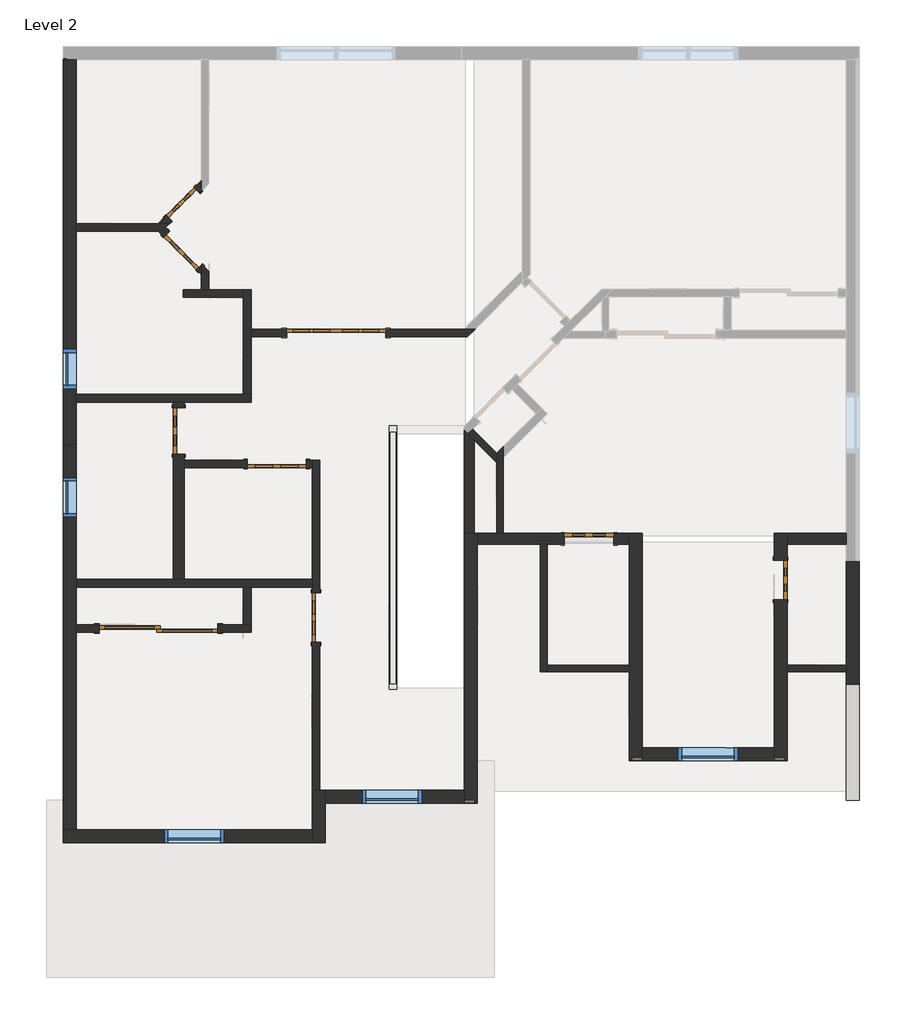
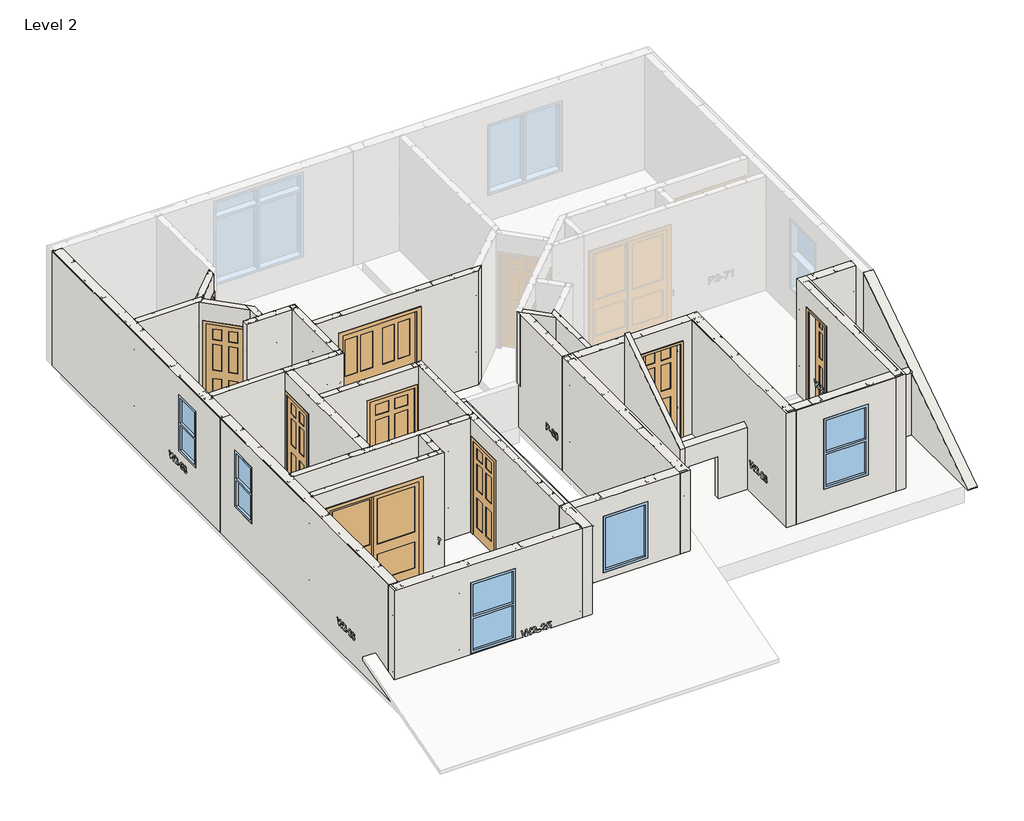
# One storey, part 1 of 46: 33 walls, 9 doors, 9 plates, 5 windows.
"""IFC4 building model written with IfcOpenShell, lengths in millimetres."""

from ifc_helpers import new_model, si_unit, frame, origin, place, context, project, spatial, polyline, outline, extrude, faceted_brep, transform, mapped, element, save
from components import door_96e5bb69, door_b314dff3, door_c8669bc4, door_38cb6b30, door_5d78ae58, door_449ada1f, door_bac94f7e, door_2427d1e9, door_0a2bcba9, system_panel_db5a4bbc, system_panel_f71eefa9, system_panel_914d0df6, system_panel_2f911657, system_panel_e3e1f07d, system_panel_cb42da73, system_panel_3053a784, system_panel_2ae99ec5, system_panel_9af6622a, window_3f51f6f0, window_8445838e, window_53f5c2a4

model = new_model("IFC4")

# Units and contexts
model_context = context("Model", 3, world=origin())
ifc_project = project(units=[si_unit("LENGTHUNIT", "METRE", prefix="MILLI")], contexts=[model_context])

# Site, building, storey
site = spatial("IfcSite", under=ifc_project)
building = spatial("IfcBuilding", under=site)
storey = spatial("IfcBuildingStorey", under=building, Name="Level 2", Elevation=3060.7)

# Doors
placement = place(None, origin())
door_shape = door_96e5bb69(model_context)
element("IfcDoor", 1, ObjectType="INT_Double : 5'-0\" x 6'-8\"", at=placement, inside=storey, context=model_context, shape_type="MappedRepresentation", body=[
    mapped(door_shape, transform((-11098.3413349, 9633.077221, 3060.7), x_axis=(1.0, 0.0, 0.0), y_axis=(0.0, 1.0, 0.0), z_axis=(0.0, 0.0, 1.0))),
])
door_2_shape = door_b314dff3(model_context)
element("IfcDoor", 2, ObjectType="INT_Single : 2'-0\" x 6'-8\"", at=placement, inside=storey, context=model_context, shape_type="MappedRepresentation", body=[
    mapped(door_2_shape, transform((-13463.6672549, 11619.9399338, 3060.7), x_axis=(-0.7071067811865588, -0.7071067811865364, 0.0), y_axis=(0.7071067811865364, -0.7071067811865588, 0.0), z_axis=(0.0, 0.0, 1.0))),
])
door_3_shape = door_c8669bc4(model_context)
element("IfcDoor", 3, ObjectType="INT_Single : 2'-0\" x 6'-8\"", at=placement, inside=storey, context=model_context, shape_type="MappedRepresentation", body=[
    mapped(door_3_shape, transform((-4239.5475849, 5821.489721, 3060.7), x_axis=(0.0, 1.0, 0.0), y_axis=(-1.0, 0.0, 0.0), z_axis=(0.0, 0.0, 1.0))),
])
door_4_shape = door_38cb6b30(model_context)
element("IfcDoor", 4, ObjectType="INT_Single : 2'-4\" x 6'-8\"", at=placement, inside=storey, context=model_context, shape_type="MappedRepresentation", body=[
    mapped(door_4_shape, transform((-13463.6672549, 10903.7645081, 3060.7), x_axis=(-0.7071067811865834, 0.7071067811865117, 0.0), y_axis=(-0.7071067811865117, -0.7071067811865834, 0.0), z_axis=(0.0, 0.0, 1.0))),
])
door_5_shape = door_5d78ae58(model_context)
element("IfcDoor", 5, ObjectType="INT_Single : 2'-4\" x 6'-8\"", at=placement, inside=storey, context=model_context, shape_type="MappedRepresentation", body=[
    mapped(door_5_shape, transform((-13527.2163349, 8120.189721, 3060.7), x_axis=(0.0, 1.0, 0.0), y_axis=(-1.0, 0.0, 0.0), z_axis=(0.0, 0.0, 1.0))),
])
door_6_shape = door_449ada1f(model_context)
element("IfcDoor", 6, ObjectType="INT_Single : 2'-6\" x 6'-8\"", at=placement, inside=storey, context=model_context, shape_type="MappedRepresentation", body=[
    mapped(door_6_shape, transform((-11409.4913349, 5238.877221, 3060.7), x_axis=(0.0, 1.0, 0.0), y_axis=(-1.0, 0.0, 0.0), z_axis=(0.0, 0.0, 1.0))),
])
door_7_shape = door_bac94f7e(model_context)
element("IfcDoor", 7, ObjectType="INT_Single : 2'-6\" x 6'-8\"", at=placement, inside=storey, context=model_context, shape_type="MappedRepresentation", body=[
    mapped(door_7_shape, transform((-7195.4725849, 6454.902221, 3060.7), x_axis=(-1.0, 0.0, 0.0), y_axis=(0.0, -1.0, 0.0), z_axis=(0.0, 0.0, 1.0))),
])
door_8_shape = door_2427d1e9(model_context)
element("IfcDoor", 8, ObjectType="INT_Single : 3'-0\" x 6'-8\"", at=placement, inside=storey, context=model_context, shape_type="MappedRepresentation", body=[
    mapped(door_8_shape, transform((-12017.5038349, 7610.602221, 3060.7), x_axis=(1.0, 0.0, 0.0), y_axis=(0.0, 1.0, 0.0), z_axis=(0.0, 0.0, 1.0))),
])
door_9_shape = door_0a2bcba9(model_context)
element("IfcDoor", 9, ObjectType="INT_Sliding Closet : 6'-0\" x 6'-8\"", at=placement, inside=storey, context=model_context, shape_type="MappedRepresentation", body=[
    mapped(door_9_shape, transform((-13841.5413349, 5197.602221, 3060.7), x_axis=(-1.0, 0.0, 0.0), y_axis=(0.0, -1.0, 0.0), z_axis=(0.0, 0.0, 1.0))),
])

# Plates
system_panel_shape = system_panel_db5a4bbc(model_context)
element("IfcPlate", 10, ObjectType="System Panel : 1/2\" Plywood & 1\" Rigid Ins.", at=placement, inside=storey, context=model_context, shape_type="MappedRepresentation", body=[
    mapped(system_panel_shape, transform((-11295.1913349, 2172.620971, 3060.7), x_axis=(0.0, -1.0, 0.0), y_axis=(1.0, 0.0, 0.0), z_axis=(0.0, 0.0, 1.0))),
])
system_panel_2_shape = system_panel_f71eefa9(model_context)
element("IfcPlate", 11, ObjectType="System Panel : 1/2\" Plywood & 1\" Rigid Ins.", at=placement, inside=storey, context=model_context, shape_type="MappedRepresentation", body=[
    mapped(system_panel_2_shape, transform((-13366.8788349, 1794.002221, 3060.7), x_axis=(-1.0, 0.0, 0.0), y_axis=(0.0, -1.0, 0.0), z_axis=(0.0, 0.0, 1.0))),
])
system_panel_3_shape = system_panel_914d0df6(model_context)
element("IfcPlate", 12, ObjectType="System Panel : 1/2\" Plywood & 1\" Rigid Ins.", at=placement, inside=storey, context=model_context, shape_type="MappedRepresentation", body=[
    mapped(system_panel_3_shape, transform((-15282.9913349, 4930.2324992, 3060.7), x_axis=(0.0, 1.0, 0.0), y_axis=(-1.0, 0.0, 0.0), z_axis=(0.0, 0.0, 1.0))),
])
system_panel_4_shape = system_panel_2f911657(model_context)
element("IfcPlate", 13, ObjectType="System Panel : 1/2\" Plywood & 1\" Rigid Ins.", at=placement, inside=storey, context=model_context, shape_type="MappedRepresentation", body=[
    mapped(system_panel_4_shape, transform((-8945.6913349, 4465.764721, 3060.7), x_axis=(0.0, -1.0, 0.0), y_axis=(1.0, 0.0, 0.0), z_axis=(0.0, 0.0, 1.0))),
])
system_panel_5_shape = system_panel_e3e1f07d(model_context)
element("IfcPlate", 14, ObjectType="System Panel : 1/2\" Plywood & 1\" Rigid Ins.", at=placement, inside=storey, context=model_context, shape_type="MappedRepresentation", body=[
    mapped(system_panel_5_shape, transform((-6550.1538349, 4791.995971, 3060.7), x_axis=(0.0, 1.0, 0.0), y_axis=(-1.0, 0.0, 0.0), z_axis=(0.0, 0.0, 1.0))),
])
system_panel_6_shape = system_panel_cb42da73(model_context)
element("IfcPlate", 15, ObjectType="System Panel : 1/2\" Plywood & 1\" Rigid Ins.", at=placement, inside=storey, context=model_context, shape_type="MappedRepresentation", body=[
    mapped(system_panel_6_shape, transform((-15282.9913349, 10886.5324992, 3060.7), x_axis=(0.0, 1.0, 0.0), y_axis=(-1.0, 0.0, 0.0), z_axis=(0.0, 0.0, 1.0))),
])
system_panel_7_shape = system_panel_3053a784(model_context)
element("IfcPlate", 16, ObjectType="System Panel : 1/2\" Plywood & 1\" Rigid Ins.", at=placement, inside=storey, context=model_context, shape_type="MappedRepresentation", body=[
    mapped(system_panel_7_shape, transform((-10116.4725849, 2403.602221, 3060.7), x_axis=(-1.0, 0.0, 0.0), y_axis=(0.0, -1.0, 0.0), z_axis=(0.0, 0.0, 1.0))),
])
system_panel_8_shape = system_panel_2ae99ec5(model_context)
element("IfcPlate", 17, ObjectType="System Panel : 1/2\" Plywood & 1\" Rigid Ins.", at=placement, inside=storey, context=model_context, shape_type="MappedRepresentation", body=[
    mapped(system_panel_8_shape, transform((-4165.7288349, 4791.995971, 3060.7), x_axis=(0.0, -1.0, 0.0), y_axis=(1.0, 0.0, 0.0), z_axis=(0.0, 0.0, 1.0))),
])
system_panel_9_shape = system_panel_9af6622a(model_context)
element("IfcPlate", 18, ObjectType="System Panel : 1/2\" Plywood & 1\" Rigid Ins.", at=placement, inside=storey, context=model_context, shape_type="MappedRepresentation", body=[
    mapped(system_panel_9_shape, transform((-5357.9413349, 3056.064721, 3060.7), x_axis=(-1.0, 0.0, 0.0), y_axis=(0.0, -1.0, 0.0), z_axis=(0.0, 0.0, 1.0))),
])

# Walls
element("IfcWall", 19, ObjectType="EXT_550_Gyp_01", at=placement, inside=storey, context=model_context, shape_type="SweptSolid", body=[
    extrude(outline(polyline([(3060.7, -8918.7038349), (3060.7, -7576.4725849), (5092.7, -7576.4725849), (5092.7, -6814.4725849), (3060.7, -6814.4725849), (3060.7, -6577.1413349), (5524.5, -6577.1413349), (5524.5, -8918.7038349), (3060.7, -8918.7038349)])), frame((0.0, 6369.177221, 0.0), z_axis=(0.0, 1.0, 0.0), x_axis=(0.0, 0.0, 1.0)), (0.0, 0.0, 1.0), 171.45),
])
element("IfcWall", 20, ObjectType="EXT_550_Gyp_01", at=placement, inside=storey, context=model_context, shape_type="SweptSolid", body=[
    extrude(outline(polyline([(-3227.5163349, 6369.177221), (-4138.7413349, 6369.177221), (-4138.7413349, 6540.627221), (-3227.5163349, 6540.627221), (-3227.5163349, 6369.177221)])), frame((0.0, 0.0, 3060.7), z_axis=(0.0, 0.0, 1.0), x_axis=(1.0, 0.0, 0.0)), (0.0, 0.0, 1.0), 2463.8),
])
element("IfcWall", 21, ObjectType="EXT_550_Siding_01", at=placement, inside=storey, context=model_context, shape_type="Brep", body=[
    faceted_brep([(-11469.8163349, 2578.227221, 3060.7), (-11469.8163349, 1968.627221, 3060.7), (-11469.8163349, 1767.014721, 3060.7), (-11469.8163349, 1767.014721, 3520.3135147), (-11469.8163349, 1813.052221, 3533.7411188), (-11469.8163349, 1813.052221, 3613.1161188), (-11469.8163349, 1767.014721, 3599.6885147), (-11469.8163349, 1767.014721, 5524.5), (-11469.8163349, 1968.627221, 5524.5), (-11469.8163349, 2578.227221, 5524.5), (-11268.2038349, 2578.227221, 5524.5), (-11268.2038349, 2376.614721, 5524.5), (-11268.2038349, 1968.627221, 5524.5), (-11268.2038349, 1767.014721, 5524.5), (-11268.2038349, 1767.014721, 3599.6885147), (-11268.2038349, 2422.652221, 3790.9161188), (-11268.2038349, 2422.652221, 3711.5411188), (-11268.2038349, 1767.014721, 3520.3135147), (-11268.2038349, 1767.014721, 3060.7), (-11268.2038349, 2376.614721, 3060.7), (-11268.2038349, 2578.227221, 3060.7), (-11314.2413349, 2578.227221, 3060.7), (-11314.2413349, 1767.014721, 3060.7), (-11314.2413349, 2422.652221, 3711.5411188), (-11314.2413349, 1813.052221, 3533.7411188), (-11314.2413349, 1813.052221, 3613.1161188), (-11314.2413349, 2422.652221, 3790.9161188)], [[[0, 1, 2, 3, 4, 5, 6, 7, 8, 9]], [[10, 11, 12, 13, 14, 15, 16, 17, 18, 19, 20]], [[9, 8, 7, 13, 12, 11, 10]], [[0, 9, 10, 20, 21]], [[2, 22, 18, 17, 3]], [[13, 7, 6, 14]], [[23, 24, 4, 3, 17, 16]], [[25, 26, 15, 14, 6, 5]], [[24, 25, 5, 4]], [[24, 23, 26, 25]], [[2, 1, 0, 21, 22]], [[21, 20, 19, 18, 22]], [[26, 23, 16, 15]]]),
])
element("IfcWall", 22, ObjectType="EXT_550_Siding_01", at=placement, inside=storey, context=model_context, shape_type="Brep", body=[
    faceted_brep([(-11469.8163349, 1968.627221, 3060.7), (-15108.3663349, 1968.627221, 3060.7), (-15309.9788349, 1968.627221, 3060.7), (-15309.9788349, 1968.627221, 3579.1171605), (-15263.9413349, 1968.627221, 3579.1171605), (-15263.9413349, 1968.627221, 3658.4921605), (-15309.9788349, 1968.627221, 3658.4921605), (-15309.9788349, 1968.627221, 5524.5), (-15108.3663349, 1968.627221, 5524.5), (-11469.8163349, 1968.627221, 5524.5), (-13746.2913349, 1968.627221, 5143.5), (-13746.2913349, 1968.627221, 3619.5), (-12831.8913349, 1968.627221, 3619.5), (-12831.8913349, 1968.627221, 5143.5), (-11469.8163349, 1767.014721, 5524.5), (-15309.9788349, 1767.014721, 5524.5), (-15309.9788349, 1767.014721, 3599.6885147), (-11469.8163349, 1767.014721, 3599.6885147), (-13746.2913349, 1767.014721, 3619.5), (-13746.2913349, 1767.014721, 5143.5), (-12831.8913349, 1767.014721, 5143.5), (-12831.8913349, 1767.014721, 3619.5), (-15309.9788349, 1767.014721, 3060.7), (-11469.8163349, 1767.014721, 3060.7), (-11469.8163349, 1767.014721, 3520.3135147), (-15309.9788349, 1767.014721, 3520.3135147), (-11469.8163349, 1813.052221, 3613.1161188), (-11469.8163349, 1813.052221, 3533.7411188), (-11469.8163349, 1813.052221, 3060.7), (-15309.9788349, 1813.052221, 3060.7), (-15263.9413349, 1813.052221, 3533.7411188), (-15263.9413349, 1813.052221, 3613.1161188)], [[[0, 1, 2, 3, 4, 5, 6, 7, 8, 9], [10, 11, 12, 13]], [[14, 15, 16, 17], [18, 19, 20, 21]], [[22, 23, 24, 25]], [[9, 8, 7, 15, 14]], [[0, 9, 14, 17, 26, 27, 24, 23, 28]], [[15, 7, 6, 16]], [[2, 29, 22, 25, 3]], [[27, 30, 4, 3, 25, 24]], [[5, 31, 26, 17, 16, 6]], [[31, 30, 27, 26]], [[30, 31, 5, 4]], [[2, 1, 0, 28, 29]], [[28, 23, 22, 29]], [[18, 11, 10, 19]], [[11, 18, 21, 12]], [[12, 21, 20, 13]], [[19, 10, 13, 20]]]),
])
element("IfcWall", 23, ObjectType="EXT_550_Siding_01", at=placement, inside=storey, context=model_context, shape_type="Brep", body=[
    faceted_brep([(-15108.3663349, 1968.627221, 3060.7), (-15108.3663349, 7907.7127774, 3060.7), (-15108.3663349, 7907.7127774, 5524.5), (-15108.3663349, 1968.627221, 5524.5), (-15108.3663349, 7401.052221, 5143.5), (-15108.3663349, 7401.052221, 3924.3), (-15108.3663349, 6791.452221, 3924.3), (-15108.3663349, 6791.452221, 5143.5), (-15309.9788349, 7907.7127774, 5524.5), (-15309.9788349, 7907.7127774, 3060.7), (-15309.9788349, 1968.627221, 3060.7), (-15309.9788349, 1968.627221, 3579.1171605), (-15309.9788349, 2422.652221, 3711.5411188), (-15309.9788349, 2422.652221, 3790.9161188), (-15309.9788349, 1968.627221, 3658.4921605), (-15309.9788349, 1968.627221, 5524.5), (-15309.9788349, 7401.052221, 3924.3), (-15309.9788349, 7401.052221, 5143.5), (-15309.9788349, 6791.452221, 5143.5), (-15309.9788349, 6791.452221, 3924.3), (-15263.9413349, 7907.7127774, 3060.7), (-15263.9413349, 1968.627221, 3658.4921605), (-15263.9413349, 1968.627221, 3579.1171605), (-15263.9413349, 1968.627221, 3060.7), (-15263.9413349, 2422.652221, 3711.5411188), (-15263.9413349, 2422.652221, 3790.9161188)], [[[0, 1, 2, 3], [4, 5, 6, 7]], [[8, 9, 10, 11, 12, 13, 14, 15], [16, 17, 18, 19]], [[2, 1, 20, 9, 8]], [[3, 2, 8, 15]], [[0, 3, 15, 14, 21, 22, 11, 10, 23]], [[22, 24, 12, 11]], [[13, 25, 21, 14]], [[24, 25, 13, 12]], [[25, 24, 22, 21]], [[1, 0, 23, 20]], [[23, 10, 9, 20]], [[5, 4, 17, 16]], [[6, 5, 16, 19]], [[7, 6, 19, 18]], [[4, 7, 18, 17]]]),
])
element("IfcWall", 24, ObjectType="EXT_550_Siding_01", at=placement, inside=storey, context=model_context, shape_type="Brep", body=[
    faceted_brep([(-9120.3163349, 6540.627221, 3060.7), (-9120.3163349, 2578.227221, 3060.7), (-9120.3163349, 2376.614721, 3060.7), (-9120.3163349, 2376.614721, 3698.1135147), (-9120.3163349, 2422.652221, 3711.5411188), (-9120.3163349, 2422.652221, 3790.9161188), (-9120.3163349, 2376.614721, 3777.4885147), (-9120.3163349, 2376.614721, 5524.5), (-9120.3163349, 2578.227221, 5524.5), (-9120.3163349, 6540.627221, 5524.5), (-8918.7038349, 6540.627221, 5524.5), (-8918.7038349, 6369.177221, 5524.5), (-8918.7038349, 2578.227221, 5524.5), (-8918.7038349, 2376.614721, 5524.5), (-8918.7038349, 2376.614721, 3777.4885147), (-8918.7038349, 3032.252221, 3968.7161188), (-8918.7038349, 3032.252221, 3889.3411188), (-8918.7038349, 2376.614721, 3698.1135147), (-8918.7038349, 2376.614721, 3165.1765355), (-8918.7038349, 2376.614721, 3060.7), (-8918.7038349, 2403.0619225, 3060.7), (-8918.7038349, 6369.177221, 3060.7), (-8918.7038349, 6540.627221, 3060.7), (-8964.7413349, 3032.252221, 3889.3411188), (-8964.7413349, 2422.652221, 3711.5411188), (-8964.7413349, 2422.652221, 3790.9161188), (-8964.7413349, 3032.252221, 3968.7161188), (-8964.7413349, 6540.627221, 3060.7), (-8964.7413349, 2376.614721, 3060.7)], [[[0, 1, 2, 3, 4, 5, 6, 7, 8, 9]], [[10, 11, 12, 13, 14, 15, 16, 17, 18, 19, 20, 21, 22]], [[9, 8, 7, 13, 12, 11, 10]], [[23, 24, 4, 3, 17, 16]], [[25, 26, 15, 14, 6, 5]], [[26, 23, 16, 15]], [[24, 23, 26, 25]], [[2, 1, 0, 27, 28]], [[2, 28, 19, 18, 17, 3]], [[13, 7, 6, 14]], [[24, 25, 5, 4]], [[0, 9, 10, 22, 27]], [[28, 27, 22, 21, 20, 19]]]),
])
element("IfcWall", 25, ObjectType="EXT_550_Siding_01", at=placement, inside=storey, context=model_context, shape_type="Brep", body=[
    faceted_brep([(-6375.5288349, 3029.077221, 3060.7), (-6375.5288349, 3230.689721, 3060.7), (-6375.5288349, 6540.627221, 3060.7), (-6375.5288349, 6540.627221, 5524.5), (-6375.5288349, 3230.689721, 5524.5), (-6375.5288349, 3029.077221, 5524.5), (-6577.1413349, 3029.077221, 3060.7), (-6577.1413349, 3029.077221, 5524.5), (-6577.1413349, 3230.689721, 5524.5), (-6577.1413349, 6369.177221, 5524.5), (-6577.1413349, 6540.627221, 5524.5), (-6577.1413349, 6540.627221, 3060.7), (-6577.1413349, 6369.177221, 3060.7), (-6531.1038349, 3029.077221, 3060.7), (-6531.1038349, 6540.627221, 3060.7)], [[[0, 1, 2, 3, 4, 5]], [[6, 7, 8, 9, 10, 11, 12]], [[5, 4, 3, 10, 9, 8, 7]], [[2, 1, 0, 13, 14]], [[3, 2, 14, 11, 10]], [[0, 5, 7, 6, 13]], [[13, 6, 12, 11, 14]]]),
])
element("IfcWall", 26, ObjectType="EXT_550_Siding_01", at=placement, inside=storey, context=model_context, shape_type="Brep", body=[
    faceted_brep([(-4138.7413349, 6540.627221, 5524.5), (-4138.7413349, 6369.177221, 5524.5), (-4138.7413349, 3230.689721, 5524.5), (-4138.7413349, 3029.077221, 5524.5), (-4138.7413349, 3029.077221, 3060.7), (-4138.7413349, 5516.689721, 3060.7), (-4138.7413349, 5516.689721, 5092.7), (-4138.7413349, 6126.289721, 5092.7), (-4138.7413349, 6126.289721, 3060.7), (-4138.7413349, 6369.177221, 3060.7), (-4138.7413349, 6540.627221, 3060.7), (-4340.3538349, 3029.077221, 5524.5), (-4340.3538349, 3230.689721, 5524.5), (-4340.3538349, 6540.627221, 5524.5), (-4340.3538349, 6540.627221, 3060.7), (-4340.3538349, 6126.289721, 3060.7), (-4340.3538349, 6126.289721, 5092.7), (-4340.3538349, 5516.689721, 5092.7), (-4340.3538349, 5516.689721, 3060.7), (-4340.3538349, 3230.689721, 3060.7), (-4340.3538349, 3029.077221, 3060.7), (-4184.7788349, 6540.627221, 3060.7), (-4184.7788349, 6126.289721, 3060.7), (-4184.7788349, 3029.077221, 3060.7), (-4184.7788349, 5516.689721, 3060.7)], [[[0, 1, 2, 3, 4, 5, 6, 7, 8, 9, 10]], [[11, 12, 13, 14, 15, 16, 17, 18, 19, 20]], [[3, 2, 1, 0, 13, 12, 11]], [[14, 21, 22, 15]], [[23, 20, 19, 18, 24]], [[21, 10, 9, 8, 22]], [[4, 23, 24, 5]], [[7, 16, 15, 22, 8]], [[16, 7, 6, 17]], [[17, 6, 5, 24, 18]], [[0, 10, 21, 14, 13]], [[4, 3, 11, 20, 23]]]),
])
element("IfcWall", 27, ObjectType="EXT_550_Siding_01", at=placement, inside=storey, context=model_context, shape_type="Brep", body=[
    faceted_brep([(-15108.3663349, 7907.7127774, 3060.7), (-15108.3663349, 13849.477221, 3060.7), (-15108.3663349, 13849.477221, 5524.5), (-15108.3663349, 7907.7127774, 5524.5), (-15108.3663349, 9382.4062273, 5143.5), (-15108.3663349, 9382.4062273, 3924.3), (-15108.3663349, 8772.8062273, 3924.3), (-15108.3663349, 8772.8062273, 5143.5), (-15309.9788349, 7907.7127774, 3060.7), (-15309.9788349, 7907.7127774, 5524.5), (-15309.9788349, 13849.477221, 5524.5), (-15309.9788349, 13849.477221, 3060.7), (-15309.9788349, 9382.4062273, 5143.5), (-15309.9788349, 8772.8062273, 5143.5), (-15309.9788349, 8772.8062273, 3924.3), (-15309.9788349, 9382.4062273, 3924.3), (-15263.9413349, 7907.7127774, 3060.7), (-15263.9413349, 13849.477221, 3060.7)], [[[0, 1, 2, 3], [4, 5, 6, 7]], [[8, 9, 10, 11], [12, 13, 14, 15]], [[3, 2, 10, 9]], [[0, 3, 9, 8, 16]], [[2, 1, 17, 11, 10]], [[1, 0, 16, 17]], [[16, 8, 11, 17]], [[4, 7, 13, 12]], [[7, 6, 14, 13]], [[6, 5, 15, 14]], [[5, 4, 12, 15]]]),
])
element("IfcWall", 28, ObjectType="EXT_550_Siding_01", at=placement, inside=storey, context=model_context, shape_type="Brep", body=[
    faceted_brep([(-3227.5163349, 6104.3914974, 3060.7), (-3227.5163349, 2422.652221, 3060.7), (-3227.5163349, 2422.652221, 3073.760199), (-3227.5163349, 6104.3914974, 5528.2530499), (-3227.5163349, 6104.3914974, 5524.5), (-3025.9038349, 6104.3914974, 3060.7), (-3025.9038349, 6104.3914974, 5524.5), (-3025.9038349, 6104.3914974, 5528.2530499), (-3025.9038349, 2422.652221, 3073.760199), (-3025.9038349, 2422.652221, 3060.7), (-3071.9413349, 2422.652221, 3060.7), (-3071.9413349, 6104.3914974, 3060.7)], [[[0, 1, 2, 3, 4]], [[5, 6, 7, 8, 9]], [[2, 1, 10, 9, 8]], [[0, 4, 3, 7, 6, 5, 11]], [[1, 0, 11, 10]], [[11, 5, 9, 10]], [[3, 2, 8, 7]]]),
])
element("IfcWall", 29, ObjectType="EXT_550_Siding_01", at=placement, inside=storey, context=model_context, shape_type="Brep", body=[
    faceted_brep([(-11268.2038349, 2376.614721, 3060.7), (-9120.3163349, 2376.614721, 3060.7), (-9120.3163349, 2376.614721, 3698.1135147), (-9120.3163349, 2376.614721, 3777.4885147), (-9120.3163349, 2376.614721, 5524.5), (-11268.2038349, 2376.614721, 5524.5), (-9777.5413349, 2376.614721, 5143.5), (-9777.5413349, 2376.614721, 3924.3), (-10691.9413349, 2376.614721, 3924.3), (-10691.9413349, 2376.614721, 5143.5), (-11268.2038349, 2578.227221, 3060.7), (-11268.2038349, 2578.227221, 5524.5), (-9120.3163349, 2578.227221, 5524.5), (-9120.3163349, 2578.227221, 3060.7), (-9777.5413349, 2578.227221, 5143.5), (-10691.9413349, 2578.227221, 5143.5), (-10691.9413349, 2578.227221, 3924.3), (-9777.5413349, 2578.227221, 3924.3), (-11268.2038349, 2422.652221, 3060.7), (-9120.3163349, 2422.652221, 3060.7)], [[[0, 1, 2, 3, 4, 5], [6, 7, 8, 9]], [[10, 11, 12, 13], [14, 15, 16, 17]], [[5, 4, 12, 11]], [[18, 10, 13, 19]], [[1, 0, 18, 19]], [[7, 6, 14, 17]], [[8, 7, 17, 16]], [[9, 8, 16, 15]], [[6, 9, 15, 14]], [[4, 3, 2, 1, 19, 13, 12]], [[0, 5, 11, 10, 18]]]),
])
element("IfcWall", 30, ObjectType="EXT_550_Siding_01", at=placement, inside=storey, context=model_context, shape_type="Brep", body=[
    faceted_brep([(-6375.5288349, 3029.077221, 3060.7), (-4340.3538349, 3029.077221, 3060.7), (-4340.3538349, 3029.077221, 5524.5), (-6375.5288349, 3029.077221, 5524.5), (-5815.1413349, 3029.077221, 5143.5), (-4900.7413349, 3029.077221, 5143.5), (-4900.7413349, 3029.077221, 3619.5), (-5815.1413349, 3029.077221, 3619.5), (-6375.5288349, 3230.689721, 3060.7), (-6375.5288349, 3230.689721, 5524.5), (-4340.3538349, 3230.689721, 5524.5), (-4340.3538349, 3230.689721, 3060.7), (-5815.1413349, 3230.689721, 5143.5), (-5815.1413349, 3230.689721, 3619.5), (-4900.7413349, 3230.689721, 3619.5), (-4900.7413349, 3230.689721, 5143.5), (-6375.5288349, 3075.114721, 3060.7), (-4340.3538349, 3075.114721, 3060.7)], [[[0, 1, 2, 3], [4, 5, 6, 7]], [[8, 9, 10, 11], [12, 13, 14, 15]], [[3, 2, 10, 9]], [[16, 8, 11, 17]], [[1, 0, 16, 17]], [[13, 12, 4, 7]], [[14, 13, 7, 6]], [[15, 14, 6, 5]], [[12, 15, 5, 4]], [[0, 3, 9, 8, 16]], [[2, 1, 17, 11, 10]]]),
])
element("IfcWall", 31, ObjectType="INT_350_Gyp_01", at=placement, inside=storey, context=model_context, shape_type="Brep", body=[
    faceted_brep([(-11349.1663349, 5619.877221, 5092.7), (-11349.1663349, 5619.877221, 3060.7), (-11349.1663349, 7670.927221, 3060.7), (-11349.1663349, 7670.927221, 5524.5), (-11349.1663349, 2578.227221, 5524.5), (-11349.1663349, 2578.227221, 3060.7), (-11349.1663349, 4857.877221, 3060.7), (-11349.1663349, 4857.877221, 5092.7), (-11469.8163349, 7670.927221, 3060.7), (-11469.8163349, 7550.277221, 3060.7), (-11469.8163349, 5829.427221, 3060.7), (-11469.8163349, 5708.777221, 3060.7), (-11469.8163349, 5619.877221, 3060.7), (-11469.8163349, 5619.877221, 5092.7), (-11469.8163349, 4857.877221, 5092.7), (-11469.8163349, 4857.877221, 3060.7), (-11469.8163349, 2578.227221, 3060.7), (-11469.8163349, 2578.227221, 5524.5), (-11469.8163349, 5708.777221, 5524.5), (-11469.8163349, 5829.427221, 5524.5), (-11469.8163349, 7550.277221, 5524.5), (-11469.8163349, 7670.927221, 5524.5)], [[[0, 1, 2, 3, 4, 5, 6, 7]], [[8, 9, 10, 11, 12, 13, 14, 15, 16, 17, 18, 19, 20, 21]], [[6, 5, 16, 15]], [[2, 1, 12, 11, 10, 9, 8]], [[4, 3, 21, 20, 19, 18, 17]], [[3, 2, 8, 21]], [[5, 4, 17, 16]], [[13, 12, 1, 0]], [[14, 13, 0, 7]], [[15, 14, 7, 6]]]),
])
element("IfcWall", 32, ObjectType="INT_350_Gyp_01", at=placement, inside=storey, context=model_context, shape_type="Brep", body=[
    faceted_brep([(-10161.7163349, 4134.5036599, 3060.7), (-10161.7163349, 8081.5704064, 3060.7), (-10161.7163349, 8202.2204064, 3060.7), (-10161.7163349, 8202.2204064, 3975.1), (-10161.7163349, 8081.5704064, 3975.1), (-10161.7163349, 4134.5036599, 3975.1), (-10282.3663349, 4134.5036599, 3060.7), (-10282.3663349, 4134.5036599, 3975.1), (-10282.3663349, 8202.2204064, 3975.1), (-10282.3663349, 8202.2204064, 3060.7)], [[[0, 1, 2, 3, 4, 5]], [[6, 7, 8, 9]], [[2, 1, 0, 6, 9]], [[5, 4, 3, 8, 7]], [[0, 5, 7, 6]], [[3, 2, 9, 8]]]),
])
element("IfcWall", 33, ObjectType="INT_350_Gyp_01", at=placement, inside=storey, context=model_context, shape_type="Brep", body=[
    faceted_brep([(-15108.3663349, 5708.777221, 3060.7), (-12533.4413349, 5708.777221, 3060.7), (-12412.7913349, 5708.777221, 3060.7), (-11469.8163349, 5708.777221, 3060.7), (-11469.8163349, 5708.777221, 5524.5), (-12412.7913349, 5708.777221, 5524.5), (-12533.4413349, 5708.777221, 5524.5), (-15108.3663349, 5708.777221, 5524.5), (-15108.3663349, 5829.427221, 3060.7), (-15108.3663349, 5829.427221, 5524.5), (-13612.9413349, 5829.427221, 5524.5), (-13441.4913349, 5829.427221, 5524.5), (-11469.8163349, 5829.427221, 5524.5), (-11469.8163349, 5829.427221, 3060.7), (-13441.4913349, 5829.427221, 3060.7), (-13612.9413349, 5829.427221, 3060.7)], [[[0, 1, 2, 3, 4, 5, 6, 7]], [[8, 9, 10, 11, 12, 13, 14, 15]], [[3, 2, 1, 0, 8, 15, 14, 13]], [[7, 6, 5, 4, 12, 11, 10, 9]], [[0, 7, 9, 8]], [[4, 3, 13, 12]]]),
])
element("IfcWall", 34, ObjectType="INT_350_Gyp_01", at=placement, inside=storey, context=model_context, shape_type="Brep", body=[
    faceted_brep([(-15108.3663349, 5010.277221, 3060.7), (-14755.9413349, 5010.277221, 3060.7), (-14755.9413349, 5010.277221, 5092.7), (-12927.1413349, 5010.277221, 5092.7), (-12927.1413349, 5010.277221, 3060.7), (-12412.7913349, 5010.277221, 3060.7), (-12412.7913349, 5010.277221, 5524.5), (-15108.3663349, 5010.277221, 5524.5), (-14755.9413349, 5130.927221, 5092.7), (-14755.9413349, 5130.927221, 3060.7), (-15108.3663349, 5130.927221, 3060.7), (-15108.3663349, 5130.927221, 5524.5), (-12533.4413349, 5130.927221, 5524.5), (-12412.7913349, 5130.927221, 5524.5), (-12412.7913349, 5130.927221, 3060.7), (-12533.4413349, 5130.927221, 3060.7), (-12927.1413349, 5130.927221, 3060.7), (-12927.1413349, 5130.927221, 5092.7)], [[[0, 1, 2, 3, 4, 5, 6, 7]], [[8, 9, 10, 11, 12, 13, 14, 15, 16, 17]], [[10, 9, 1, 0]], [[16, 15, 14, 5, 4]], [[7, 6, 13, 12, 11]], [[6, 5, 14, 13]], [[0, 7, 11, 10]], [[4, 3, 17, 16]], [[2, 1, 9, 8]], [[3, 2, 8, 17]]]),
])
element("IfcWall", 35, ObjectType="INT_350_Gyp_01", at=placement, inside=storey, context=model_context, shape_type="SweptSolid", body=[
    extrude(outline(polyline([(-12412.7913349, 5708.777221), (-12412.7913349, 5130.927221), (-12533.4413349, 5130.927221), (-12533.4413349, 5708.777221), (-12412.7913349, 5708.777221)])), frame((0.0, 0.0, 3060.7), z_axis=(0.0, 0.0, 1.0), x_axis=(1.0, 0.0, 0.0)), (0.0, 0.0, 1.0), 2463.8),
])
element("IfcWall", 36, ObjectType="INT_350_Gyp_01", at=placement, inside=storey, context=model_context, shape_type="SweptSolid", body=[
    extrude(outline(polyline([(5092.7, -11560.3038349), (3060.7, -11560.3038349), (3060.7, -11469.8163349), (5524.5, -11469.8163349), (5524.5, -13441.4913349), (3060.7, -13441.4913349), (3060.7, -12474.7038349), (5092.7, -12474.7038349), (5092.7, -11560.3038349)])), frame((0.0, 7550.277221, 0.0), z_axis=(0.0, 1.0, 0.0), x_axis=(0.0, 0.0, 1.0)), (0.0, 0.0, 1.0), 120.65),
])
element("IfcWall", 37, ObjectType="INT_350_Gyp_01", at=placement, inside=storey, context=model_context, shape_type="Brep", body=[
    faceted_brep([(-15108.3663349, 8566.277221, 3060.7), (-13612.9413349, 8566.277221, 3060.7), (-13441.4913349, 8566.277221, 3060.7), (-12412.7913349, 8566.277221, 3060.7), (-12412.7913349, 8566.277221, 5524.5), (-13441.4913349, 8566.277221, 5524.5), (-13612.9413349, 8566.277221, 5524.5), (-15108.3663349, 8566.277221, 5524.5), (-15108.3663349, 8686.927221, 3060.7), (-15108.3663349, 8686.927221, 5524.5), (-12533.4413349, 8686.927221, 5524.5), (-12412.7913349, 8686.927221, 5524.5), (-12412.7913349, 8686.927221, 3060.7), (-12533.4413349, 8686.927221, 3060.7)], [[[0, 1, 2, 3, 4, 5, 6, 7]], [[8, 9, 10, 11, 12, 13]], [[3, 2, 1, 0, 8, 13, 12]], [[7, 6, 5, 4, 11, 10, 9]], [[4, 3, 12, 11]], [[0, 7, 9, 8]]]),
])
element("IfcWall", 38, ObjectType="INT_350_Gyp_01", at=placement, inside=storey, context=model_context, shape_type="Brep", body=[
    faceted_brep([(-12412.7913349, 8686.927221, 3060.7), (-12412.7913349, 9572.752221, 3060.7), (-12412.7913349, 9693.402221, 3060.7), (-12412.7913349, 10303.002221, 3060.7), (-12412.7913349, 10303.002221, 5524.5), (-12412.7913349, 9693.402221, 5524.5), (-12412.7913349, 9572.752221, 5524.5), (-12412.7913349, 8686.927221, 5524.5), (-12533.4413349, 8686.927221, 3060.7), (-12533.4413349, 8686.927221, 5524.5), (-12533.4413349, 10182.352221, 5524.5), (-12533.4413349, 10303.002221, 5524.5), (-12533.4413349, 10303.002221, 3060.7), (-12533.4413349, 10182.352221, 3060.7)], [[[0, 1, 2, 3, 4, 5, 6, 7]], [[8, 9, 10, 11, 12, 13]], [[3, 2, 1, 0, 8, 13, 12]], [[7, 6, 5, 4, 11, 10, 9]], [[0, 7, 9, 8]], [[4, 3, 12, 11]]]),
])
element("IfcWall", 39, ObjectType="INT_350_Gyp_01", at=placement, inside=storey, context=model_context, shape_type="Brep", body=[
    faceted_brep([(-12533.4413349, 10303.002221, 3060.7), (-13063.6663349, 10303.002221, 3060.7), (-13184.3163349, 10303.002221, 3060.7), (-13459.1748096, 10303.002221, 3060.7), (-13459.1748096, 10303.002221, 5524.5), (-13184.3163349, 10303.002221, 5524.5), (-13063.6663349, 10303.002221, 5524.5), (-12533.4413349, 10303.002221, 5524.5), (-12533.4413349, 10182.352221, 3060.7), (-12533.4413349, 10182.352221, 5524.5), (-13459.1748096, 10182.352221, 5524.5), (-13459.1748096, 10182.352221, 3060.7)], [[[0, 1, 2, 3, 4, 5, 6, 7]], [[8, 9, 10, 11]], [[3, 2, 1, 0, 8, 11]], [[4, 3, 11, 10]], [[7, 6, 5, 4, 10, 9]], [[0, 7, 9, 8]]]),
])
element("IfcWall", 40, ObjectType="INT_350_Gyp_01", at=placement, inside=storey, context=model_context, shape_type="Brep", body=[
    faceted_brep([(-9073.7421089, 9572.752221, 5524.5), (-12412.7913349, 9572.752221, 5524.5), (-12412.7913349, 9572.752221, 3060.7), (-11860.3413349, 9572.752221, 3060.7), (-11860.3413349, 9572.752221, 5092.7), (-10336.3413349, 9572.752221, 5092.7), (-10336.3413349, 9572.752221, 3060.7), (-9073.7421089, 9572.752221, 3060.7), (-12412.7913349, 9693.402221, 5524.5), (-9123.7169752, 9693.402221, 5524.5), (-8953.0921089, 9693.402221, 5524.5), (-8953.0921089, 9693.402221, 3060.7), (-9123.7169752, 9693.402221, 3060.7), (-10336.3413349, 9693.402221, 3060.7), (-10336.3413349, 9693.402221, 5092.7), (-11860.3413349, 9693.402221, 5092.7), (-11860.3413349, 9693.402221, 3060.7), (-12412.7913349, 9693.402221, 3060.7)], [[[0, 1, 2, 3, 4, 5, 6, 7]], [[8, 9, 10, 11, 12, 13, 14, 15, 16, 17]], [[11, 7, 6, 13, 12]], [[2, 17, 16, 3]], [[1, 0, 10, 9, 8]], [[0, 7, 11, 10]], [[2, 1, 8, 17]], [[5, 14, 13, 6]], [[14, 5, 4, 15]], [[15, 4, 3, 16]]]),
])
element("IfcWall", 41, ObjectType="INT_350_Gyp_01", at=placement, inside=storey, context=model_context, shape_type="Brep", body=[
    faceted_brep([(-15108.3663349, 11201.527221, 3060.7), (-13846.7424008, 11201.527221, 3060.7), (-13796.7675345, 11201.527221, 3060.7), (-13796.7675345, 11201.527221, 5524.5), (-13846.7424008, 11201.527221, 5524.5), (-15108.3663349, 11201.527221, 5524.5), (-15108.3663349, 11322.177221, 3060.7), (-15108.3663349, 11322.177221, 5524.5), (-13846.7424008, 11322.177221, 5524.5), (-13676.1175345, 11322.177221, 5524.5), (-13676.1175345, 11322.177221, 3060.7), (-13846.7424008, 11322.177221, 3060.7), (-13736.4425345, 11261.852221, 3060.7), (-13736.4425345, 11261.852221, 5524.5)], [[[0, 1, 2, 3, 4, 5]], [[6, 7, 8, 9, 10, 11]], [[2, 1, 0, 6, 11, 10, 12]], [[5, 4, 3, 13, 9, 8, 7]], [[3, 2, 12, 10, 9, 13]], [[0, 5, 7, 6]]]),
])
element("IfcWall", 42, ObjectType="INT_350_Gyp_01", at=placement, inside=storey, context=model_context, shape_type="Brep", body=[
    faceted_brep([(-13184.3163349, 11813.9784206, 5524.5), (-13676.1175345, 11322.177221, 5524.5), (-13676.1175345, 11322.177221, 3060.7), (-13636.5371852, 11361.7575703, 3060.7), (-13636.5371852, 11361.7575703, 5092.7), (-13205.4848914, 11792.8098641, 5092.7), (-13205.4848914, 11792.8098641, 3060.7), (-13184.3163349, 11813.9784206, 3060.7), (-13846.7424008, 11322.177221, 5524.5), (-13184.3163349, 11984.6032869, 5524.5), (-13184.3163349, 11984.6032869, 3060.7), (-13290.7973245, 11878.1222973, 3060.7), (-13290.7973245, 11878.1222973, 5092.7), (-13721.8496183, 11447.0700034, 5092.7), (-13721.8496183, 11447.0700034, 3060.7), (-13846.7424008, 11322.177221, 3060.7)], [[[0, 1, 2, 3, 4, 5, 6, 7]], [[8, 9, 10, 11, 12, 13, 14, 15]], [[2, 15, 14, 3]], [[10, 7, 6, 11]], [[1, 0, 9, 8]], [[2, 1, 8, 15]], [[0, 7, 10, 9]], [[13, 4, 3, 14]], [[4, 13, 12, 5]], [[5, 12, 11, 6]]]),
])
element("IfcWall", 43, ObjectType="INT_350_Gyp_01", at=placement, inside=storey, context=model_context, shape_type="Brep", body=[
    faceted_brep([(-13184.3163349, 10539.101155, 5524.5), (-13846.7424008, 11201.527221, 5524.5), (-13846.7424008, 11201.527221, 3060.7), (-13757.7706428, 11112.5554629, 3060.7), (-13757.7706428, 11112.5554629, 5092.7), (-13254.8763, 10609.6611202, 5092.7), (-13254.8763, 10609.6611202, 3060.7), (-13184.3163349, 10539.101155, 3060.7), (-13736.4425345, 11261.852221, 5524.5), (-13184.3163349, 10709.7260213, 5524.5), (-13184.3163349, 10709.7260213, 5092.7), (-13672.4582097, 11197.8678961, 5092.7), (-13672.4582097, 11197.8678961, 3060.7), (-13736.4425345, 11261.852221, 3060.7), (-13796.7675345, 11201.527221, 3060.7), (-13184.3163349, 10680.2210853, 3060.7), (-13796.7675345, 11201.527221, 5524.5), (-13184.3163349, 10680.2210853, 5092.7)], [[[0, 1, 2, 3, 4, 5, 6, 7]], [[8, 9, 10, 11, 12, 13]], [[2, 14, 13, 12, 3]], [[7, 6, 15]], [[1, 0, 9, 8, 16]], [[0, 7, 15, 17, 10, 9]], [[2, 1, 16, 14]], [[8, 13, 14, 16]], [[11, 4, 3, 12]], [[4, 11, 10, 17, 5]], [[5, 17, 15, 6]]]),
])
element("IfcWall", 44, ObjectType="INT_350_Gyp_01", at=placement, inside=storey, context=model_context, shape_type="Brep", body=[
    faceted_brep([(-13184.3163349, 10303.002221, 5524.5), (-13184.3163349, 10539.101155, 5524.5), (-13184.3163349, 10709.7260213, 5524.5), (-13184.3163349, 10709.7260213, 5092.7), (-13184.3163349, 10680.2210853, 5092.7), (-13184.3163349, 10680.2210853, 3060.7), (-13184.3163349, 10539.101155, 3060.7), (-13184.3163349, 10303.002221, 3060.7), (-13063.6663349, 10303.002221, 3060.7), (-13063.6663349, 10589.0760213, 3060.7), (-13063.6663349, 10589.0760213, 5524.5), (-13063.6663349, 10303.002221, 5524.5), (-13169.5638669, 10694.9735533, 3060.7), (-13169.5638669, 10694.9735533, 5092.7)], [[[0, 1, 2, 3, 4, 5, 6, 7]], [[8, 9, 10, 11]], [[9, 8, 7, 6, 5, 12]], [[2, 1, 0, 11, 10]], [[2, 10, 9, 12, 13, 3]], [[0, 7, 8, 11]], [[13, 4, 3]], [[4, 13, 12, 5]]]),
])
element("IfcWall", 45, ObjectType="INT_350_Gyp_02", at=placement, inside=storey, context=model_context, shape_type="Brep", body=[
    faceted_brep([(-8516.2402285, 6540.627221, 3060.7), (-8516.2402285, 7710.0750768, 3060.7), (-8516.2402285, 7880.6999431, 3060.7), (-8516.2402285, 7880.6999431, 5524.5), (-8516.2402285, 7710.0750768, 5524.5), (-8516.2402285, 6540.627221, 5524.5), (-8621.0152285, 6540.627221, 3060.7), (-8621.0152285, 6540.627221, 5524.5), (-8621.0152285, 7628.9610428, 5524.5), (-8621.0152285, 7775.9249431, 5524.5), (-8621.0152285, 7775.9249431, 3060.7), (-8621.0152285, 7628.9610428, 3060.7), (-8620.4100656, 7776.530106, 3060.7), (-8620.4100656, 7776.530106, 5524.5)], [[[0, 1, 2, 3, 4, 5]], [[6, 7, 8, 9, 10, 11]], [[2, 1, 0, 6, 11, 10, 12]], [[5, 4, 3, 13, 9, 8, 7]], [[3, 2, 12, 10, 9, 13]], [[0, 5, 7, 6]]]),
])
element("IfcWall", 46, ObjectType="INT_350_Gyp_02", at=placement, inside=storey, context=model_context, shape_type="Brep", body=[
    faceted_brep([(-8620.4100656, 7776.530106, 3060.7), (-8993.0906946, 8149.210735, 3060.7), (-8993.0906946, 8149.210735, 3975.1), (-8993.0906946, 8149.210735, 5524.5), (-8620.4100656, 7776.530106, 5524.5), (-8621.0152285, 7628.9610428, 3060.7), (-8621.0152285, 7628.9610428, 5524.5), (-8964.7413349, 7972.6871493, 5524.5), (-9067.1778076, 8075.123622, 5524.5), (-9067.1778076, 8075.123622, 3975.1), (-9073.624592, 8081.5704064, 3975.1), (-9073.624592, 8081.5704064, 3060.7), (-8964.7413349, 7972.6871493, 3060.7), (-8621.0152285, 7775.9249431, 3060.7), (-9060.7310232, 8081.5704064, 3060.7), (-8621.0152285, 7775.9249431, 5524.5), (-9060.7310232, 8081.5704064, 3975.1)], [[[0, 1, 2, 3, 4]], [[5, 6, 7, 8, 9, 10, 11, 12]], [[1, 0, 13, 5, 12, 11, 14]], [[4, 3, 8, 7, 6, 15]], [[0, 4, 15, 13]], [[15, 6, 5, 13]], [[14, 11, 10, 16]], [[9, 16, 10]], [[2, 1, 14, 16]], [[3, 2, 16, 9, 8]]]),
])
element("IfcWall", 47, ObjectType="INT_350_Gyp_02", at=placement, inside=storey, context=model_context, shape_type="Brep", body=[
    faceted_brep([(-7947.9475849, 5719.889721, 3975.1), (-7947.9475849, 5719.889721, 3060.7), (-7947.9475849, 4402.264721, 3060.7), (-7947.9475849, 4402.264721, 4393.5018656), (-7947.9475849, 6369.177221, 5704.7768656), (-7947.9475849, 6369.177221, 3060.7), (-7947.9475849, 6329.489721, 3060.7), (-7947.9475849, 6329.489721, 3975.1), (-7843.1725849, 4402.264721, 3060.7), (-7843.1725849, 4507.039721, 3060.7), (-7843.1725849, 5719.889721, 3060.7), (-7843.1725849, 5719.889721, 3975.1), (-7843.1725849, 6329.489721, 3975.1), (-7843.1725849, 6329.489721, 3060.7), (-7843.1725849, 6369.177221, 3060.7), (-7843.1725849, 6369.177221, 5704.7768656), (-7843.1725849, 4507.039721, 4463.3518656), (-7843.1725849, 4402.264721, 4393.5018656)], [[[0, 1, 2, 3, 4, 5, 6, 7]], [[8, 9, 10, 11, 12, 13, 14, 15, 16, 17]], [[6, 5, 14, 13]], [[2, 1, 10, 9, 8]], [[3, 2, 8, 17]], [[4, 3, 17, 16, 15]], [[13, 12, 7, 6]], [[11, 10, 1, 0]], [[12, 11, 0, 7]], [[5, 4, 15, 14]]]),
])
element("IfcWall", 48, ObjectType="INT_350_Gyp_02", at=placement, inside=storey, context=model_context, shape_type="Brep", body=[
    faceted_brep([(-7843.1725849, 4402.264721, 4393.5018656), (-7843.1725849, 4402.264721, 3060.7), (-7778.0850849, 4402.264721, 3060.7), (-7778.0850849, 4402.264721, 3975.1), (-7168.4850849, 4402.264721, 3975.1), (-7168.4850849, 4402.264721, 3060.7), (-6577.1413349, 4402.264721, 3060.7), (-6577.1413349, 4402.264721, 4393.5018656), (-7843.1725849, 4507.039721, 3060.7), (-7843.1725849, 4507.039721, 4463.3518656), (-6577.1413349, 4507.039721, 4463.3518656), (-6577.1413349, 4507.039721, 3060.7), (-7168.4850849, 4507.039721, 3060.7), (-7168.4850849, 4507.039721, 3975.1), (-7778.0850849, 4507.039721, 3975.1), (-7778.0850849, 4507.039721, 3060.7)], [[[0, 1, 2, 3, 4, 5, 6, 7]], [[8, 9, 10, 11, 12, 13, 14, 15]], [[1, 8, 15, 2]], [[11, 6, 5, 12]], [[1, 0, 9, 8]], [[7, 6, 11, 10]], [[0, 7, 10, 9]], [[14, 3, 2, 15]], [[4, 13, 12, 5]], [[3, 14, 13, 4]]]),
])
element("IfcWall", 49, ObjectType="INT_350_Gyp_02", at=placement, inside=storey, context=model_context, shape_type="Brep", body=[
    faceted_brep([(-3227.5163349, 4402.264721, 3060.7), (-3227.5163349, 4402.264721, 4393.5018656), (-4138.7413349, 4402.264721, 4393.5018656), (-4138.7413349, 4402.264721, 3060.7), (-4003.0100849, 4402.264721, 3060.7), (-4003.0100849, 4402.264721, 3975.1), (-3393.4100849, 4402.264721, 3975.1), (-3393.4100849, 4402.264721, 3060.7), (-3227.5163349, 4507.039721, 4463.3518656), (-3227.5163349, 4507.039721, 3060.7), (-3393.4100849, 4507.039721, 3060.7), (-3393.4100849, 4507.039721, 3975.1), (-4003.0100849, 4507.039721, 3975.1), (-4003.0100849, 4507.039721, 3060.7), (-4138.7413349, 4507.039721, 3060.7), (-4138.7413349, 4507.039721, 4463.3518656)], [[[0, 1, 2, 3, 4, 5, 6, 7]], [[8, 9, 10, 11, 12, 13, 14, 15]], [[9, 0, 7, 10]], [[3, 14, 13, 4]], [[1, 0, 9, 8]], [[3, 2, 15, 14]], [[2, 1, 8, 15]], [[12, 5, 4, 13]], [[6, 11, 10, 7]], [[5, 12, 11, 6]]]),
])
element("IfcWall", 50, ObjectType="INT_550_Gyp_01", at=placement, inside=storey, context=model_context, shape_type="Brep", body=[
    faceted_brep([(-13441.4913349, 8475.789721, 5092.7), (-13441.4913349, 8475.789721, 3060.7), (-13441.4913349, 8566.277221, 3060.7), (-13441.4913349, 8566.277221, 5524.5), (-13441.4913349, 7670.927221, 5524.5), (-13441.4913349, 7550.277221, 5524.5), (-13441.4913349, 5829.427221, 5524.5), (-13441.4913349, 5829.427221, 3060.7), (-13441.4913349, 7550.277221, 3060.7), (-13441.4913349, 7670.927221, 3060.7), (-13441.4913349, 7764.589721, 3060.7), (-13441.4913349, 7764.589721, 5092.7), (-13612.9413349, 8566.277221, 3060.7), (-13612.9413349, 8475.789721, 3060.7), (-13612.9413349, 8475.789721, 5092.7), (-13612.9413349, 7764.589721, 5092.7), (-13612.9413349, 7764.589721, 3060.7), (-13612.9413349, 5829.427221, 3060.7), (-13612.9413349, 5829.427221, 5524.5), (-13612.9413349, 8566.277221, 5524.5)], [[[0, 1, 2, 3, 4, 5, 6, 7, 8, 9, 10, 11]], [[12, 13, 14, 15, 16, 17, 18, 19]], [[2, 1, 13, 12]], [[10, 9, 8, 7, 17, 16]], [[6, 5, 4, 3, 19, 18]], [[3, 2, 12, 19]], [[7, 6, 18, 17]], [[14, 13, 1, 0]], [[15, 14, 0, 11]], [[16, 15, 11, 10]]]),
])
element("IfcWall", 51, ObjectType="INT_550_Gyp_02", at=placement, inside=storey, context=model_context, shape_type="Brep", body=[
    faceted_brep([(-8964.7413349, 6540.627221, 3060.7), (-8964.7413349, 7972.6871493, 3060.7), (-8964.7413349, 7972.6871493, 3975.1), (-8964.7413349, 7972.6871493, 5524.5), (-8964.7413349, 6540.627221, 5524.5), (-9120.3163349, 6540.627221, 3060.7), (-9120.3163349, 6540.627221, 5524.5), (-9120.3163349, 8128.2621493, 5524.5), (-9120.3163349, 8128.2621493, 3975.1), (-9120.3163349, 8081.5704064, 3975.1), (-9120.3163349, 8081.5704064, 3060.7), (-9073.624592, 8081.5704064, 3060.7), (-9067.1778076, 8075.123622, 5524.5), (-9073.624592, 8081.5704064, 3975.1)], [[[0, 1, 2, 3, 4]], [[5, 6, 7, 8, 9, 10]], [[1, 0, 5, 10, 11]], [[4, 3, 12, 7, 6]], [[11, 10, 9, 13]], [[8, 13, 9]], [[2, 1, 11, 13]], [[3, 2, 13, 8, 7, 12]], [[0, 4, 6, 5]]]),
])

# Windows
window_shape = window_3f51f6f0(model_context)
element("IfcWindow", 52, ObjectType="Fixed_1x1 : 3'-0\" x 4'-0\"", at=placement, inside=storey, context=model_context, shape_type="MappedRepresentation", body=[
    mapped(window_shape, transform((-10234.7413349, 2503.9784956, 2908.3), x_axis=(1.0, 0.0, 0.0), y_axis=(0.0, 1.0, 0.0), z_axis=(0.0, 0.0, 1.0))),
])
window_2_shape = window_8445838e(model_context)
element("IfcWindow", 53, ObjectType="Fixed_1x2 : 2'-0\" x 4'-0\"", at=placement, inside=storey, context=model_context, shape_type="MappedRepresentation", body=[
    mapped(window_2_shape, transform((-15182.6150603, 8163.052221, 2866.0632449), x_axis=(0.0, 1.0, 0.0), y_axis=(-1.0, 0.0, 0.0), z_axis=(0.0, 0.0, 1.0))),
])
element("IfcWindow", 54, ObjectType="Fixed_1x2 : 2'-0\" x 4'-0\"", at=placement, inside=storey, context=model_context, shape_type="MappedRepresentation", body=[
    mapped(window_2_shape, transform((-15182.6150603, 10144.4062273, 2866.0632449), x_axis=(0.0, 1.0, 0.0), y_axis=(-1.0, 0.0, 0.0), z_axis=(0.0, 0.0, 1.0))),
])
window_3_shape = window_53f5c2a4(model_context)
element("IfcWindow", 55, ObjectType="Fixed_1x2 : 3'-0\" x 5'-0\"", at=placement, inside=storey, context=model_context, shape_type="MappedRepresentation", body=[
    mapped(window_3_shape, transform((-14203.4913349, 1894.3784956, 2561.2632449), x_axis=(-1.0, 0.0, 0.0), y_axis=(0.0, -1.0, 0.0), z_axis=(0.0, 0.0, 1.0))),
])
element("IfcWindow", 56, ObjectType="Fixed_1x2 : 3'-0\" x 5'-0\"", at=placement, inside=storey, context=model_context, shape_type="MappedRepresentation", body=[
    mapped(window_3_shape, transform((-6272.3413349, 3156.4409956, 2561.2632449), x_axis=(-1.0, 0.0, 0.0), y_axis=(0.0, -1.0, 0.0), z_axis=(0.0, 0.0, 1.0))),
])

save(model, "model.ifc")
